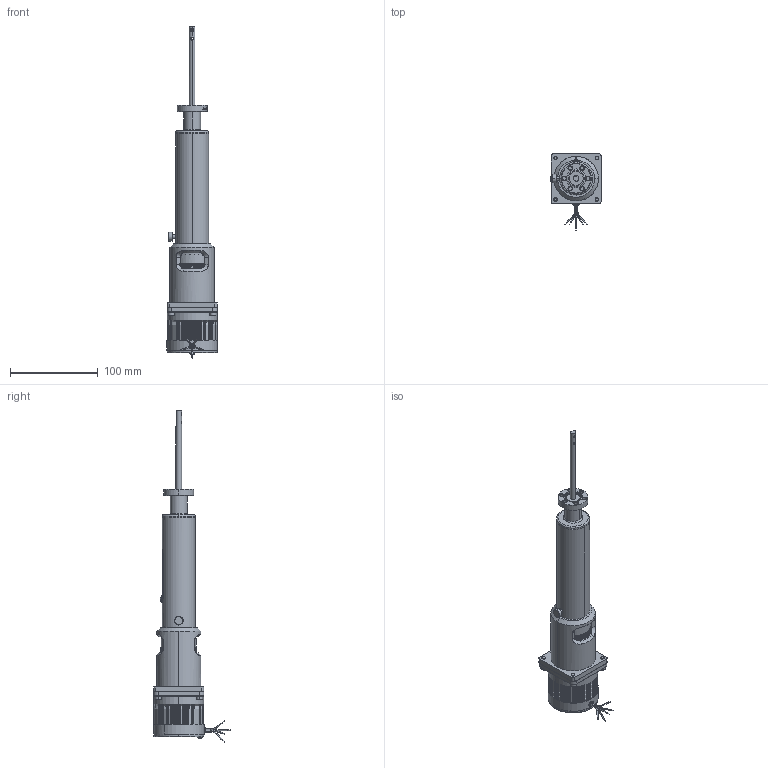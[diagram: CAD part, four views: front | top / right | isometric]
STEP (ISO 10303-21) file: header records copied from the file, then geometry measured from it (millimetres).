
FILE_DESCRIPTION (( 'STEP AP203' ), '1' );
FILE_NAME ('102210.11.stp', '2019-04-02T15:48:50', ( '' ), ( '' ), 'SwSTEP 2.0', 'SolidWorks 2012', '' );
FILE_SCHEMA (( 'CONFIG_CONTROL_DESIGN' ));
Length unit declared in the file: centimetre
Products named in the file (1): 102210.11
Bounding box: 57.4 x 86.93 x 377.39 mm (x, y, z)
Volume: 432282.7 mm3; surface area: 54330.7 mm2
Topology: 1 solids, 9 shells, 2025 faces, 5655 edges, 3692 vertices
Faces by surface type: plane 1016, cylinder 594, cone 231, bspline 184
Entity records: 97194 total; most frequent: CARTESIAN_POINT 46269, ORIENTED_EDGE 11262, DIRECTION 9985, EDGE_CURVE 5631, VERTEX_POINT 3684, AXIS2_PLACEMENT_3D 3590, LINE 2805, VECTOR 2805
